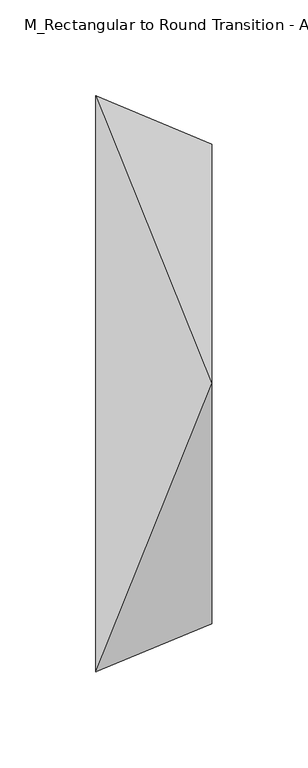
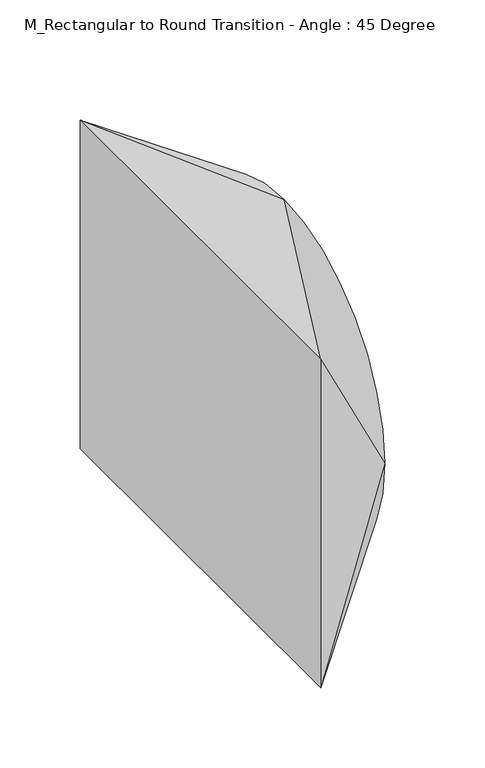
"""IFC4 building model written with IfcOpenShell, lengths in millimetres: duct fitting geometry, M_Rectangular to Round Transition - Angle : 45 Degree."""

from ifc_helpers import new_model, si_unit, frame, origin, place, context, project, spatial, circle_curve, source, transform, mapped, element, save
from ifc_brep_helpers import plane_surface, spline_surface, advanced_brep


def m_rectangular_to_round_transition_angle_45_degree_73c35b49(model_context):
    return source(origin(), model_context, "Body", "AdvancedBrep", [
        advanced_brep(
        [(0.0, -150.0, -125.0), (0.0, -150.0, 125.0), (0.0, 150.0, 125.0), (0.0, 150.0, -125.0), (60.3553391, -125.0, 9.5), (60.3553391, 0.0, -115.5), (60.3553391, 125.0, 9.5), (60.3553391, 0.0, 134.5)],
        [
            (0, 1),
            (1, 2),
            (2, 3),
            (3, 0),
            (4, 5, circle_curve(frame((60.3553391, 0.0, 9.5), z_axis=(1.0, 0.0, 0.0), x_axis=(0.0, -1.0, 0.0)), 125.0)),
            (5, 6, circle_curve(frame((60.3553391, 0.0, 9.5), z_axis=(1.0, 0.0, 0.0), x_axis=(0.0, -1.0, 0.0)), 125.0)),
            (6, 7, circle_curve(frame((60.3553391, 0.0, 9.5), z_axis=(1.0, 0.0, 0.0), x_axis=(0.0, -1.0, 0.0)), 125.0)),
            (7, 4, circle_curve(frame((60.3553391, 0.0, 9.5), z_axis=(1.0, 0.0, 0.0), x_axis=(0.0, -1.0, 0.0)), 125.0)),
            (0, 4),
            (4, 1),
            (7, 1),
            (7, 2),
            (6, 2),
            (6, 3),
            (5, 3),
            (5, 0),
        ],
        [
            plane_surface(frame((0.0, 0.0, 0.0), z_axis=(-1.0, 0.0, 0.0), x_axis=(0.0, 1.0, 0.0))),
            plane_surface(frame((60.3553391, 0.0, 9.5), z_axis=(1.0, 0.0, 0.0), x_axis=(0.0, 1.0, 0.0))),
            plane_surface(frame((60.3553391, -125.0, 9.5), z_axis=(0.3826834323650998, -0.9238795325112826, 0.0), x_axis=(0.0, 0.0, 1.0))),
            spline_surface(2, 1, [[(60.3553391, -125.0, 9.5), (0.0, -150.0, 125.0)], [(60.3553391, -125.0, 134.5), (0.0, -150.0, 125.0)], [(60.3553391, 0.0, 134.5), (0.0, -150.0, 125.0)]], [3, 3], [2, 2], [0.0, 1.0], [0.0, 1.0], weights=[[1.0, 1.0], [0.7071067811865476, 0.7071067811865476], [1.0, 1.0]]),
            plane_surface(frame((60.3553391, 0.0, 134.5), z_axis=(-0.15548683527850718, 0.0, 0.9878379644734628), x_axis=(0.0, 1.0, 0.0))),
            spline_surface(2, 1, [[(60.3553391, 0.0, 134.5), (0.0, 150.0, 125.0)], [(60.3553391, 125.0, 134.5), (0.0, 150.0, 125.0)], [(60.3553391, 125.0, 9.5), (0.0, 150.0, 125.0)]], [3, 3], [2, 2], [0.0, 1.0], [0.0, 1.0], weights=[[1.0, 1.0], [0.7071067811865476, 0.7071067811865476], [1.0, 1.0]]),
            plane_surface(frame((60.3553391, 125.0, 9.5), z_axis=(0.38268343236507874, 0.9238795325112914, 0.0), x_axis=(0.0, 0.0, -1.0))),
            spline_surface(2, 1, [[(60.3553391, 125.0, 9.5), (0.0, 150.0, -125.0)], [(60.3553391, 125.0, -115.5), (0.0, 150.0, -125.0)], [(60.3553391, 0.0, -115.5), (0.0, 150.0, -125.0)]], [3, 3], [2, 2], [0.0, 1.0], [0.0, 1.0], weights=[[1.0, 1.0], [0.7071067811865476, 0.7071067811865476], [1.0, 1.0]]),
            plane_surface(frame((60.3553391, 0.0, -115.5), z_axis=(0.15548683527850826, 0.0, -0.9878379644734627), x_axis=(0.0, -1.0, 0.0))),
            spline_surface(2, 1, [[(60.3553391, 0.0, -115.5), (0.0, -150.0, -125.0)], [(60.3553391, -125.0, -115.5), (0.0, -150.0, -125.0)], [(60.3553391, -125.0, 9.5), (0.0, -150.0, -125.0)]], [3, 3], [2, 2], [0.0, 1.0], [0.0, 1.0], weights=[[1.0, 1.0], [0.7071067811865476, 0.7071067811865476], [1.0, 1.0]]),
        ],
        [
            (0, [[1, 2, 3, 4]]),
            (1, [[5, 6, 7, 8]]),
            (2, [[-1, 9, 10]]),
            (3, [[-8, 11, -10]]),
            (4, [[-2, -11, 12]]),
            (5, [[-7, 13, -12]]),
            (6, [[-3, -13, 14]]),
            (7, [[-6, 15, -14]]),
            (8, [[-4, -15, 16]]),
            (9, [[-5, -9, -16]]),
        ],
    ),
        advanced_brep(
        [(0.0, -150.0, -125.0), (0.0, -150.0, 125.0), (0.0, 150.0, 125.0), (0.0, 150.0, -125.0), (60.3553391, -125.0, 9.5), (60.3553391, 0.0, -115.5), (60.3553391, 125.0, 9.5), (60.3553391, 0.0, 134.5)],
        [
            (0, 1),
            (1, 2),
            (2, 3),
            (3, 0),
            (4, 5, circle_curve(frame((60.3553391, 0.0, 9.5), z_axis=(1.0, 0.0, 0.0), x_axis=(0.0, -1.0, 0.0)), 125.0)),
            (5, 6, circle_curve(frame((60.3553391, 0.0, 9.5), z_axis=(1.0, 0.0, 0.0), x_axis=(0.0, -1.0, 0.0)), 125.0)),
            (6, 7, circle_curve(frame((60.3553391, 0.0, 9.5), z_axis=(1.0, 0.0, 0.0), x_axis=(0.0, -1.0, 0.0)), 125.0)),
            (7, 4, circle_curve(frame((60.3553391, 0.0, 9.5), z_axis=(1.0, 0.0, 0.0), x_axis=(0.0, -1.0, 0.0)), 125.0)),
            (0, 4),
            (4, 1),
            (7, 1),
            (7, 2),
            (6, 2),
            (6, 3),
            (5, 3),
            (5, 0),
        ],
        [
            plane_surface(frame((0.0, 0.0, 0.0), z_axis=(-1.0, 0.0, 0.0), x_axis=(0.0, 1.0, 0.0))),
            plane_surface(frame((60.3553391, 0.0, 9.5), z_axis=(1.0, 0.0, 0.0), x_axis=(0.0, 1.0, 0.0))),
            plane_surface(frame((60.3553391, -125.0, 9.5), z_axis=(0.3826834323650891, -0.9238795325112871, 0.0), x_axis=(0.0, 0.0, 1.0))),
            spline_surface(2, 1, [[(60.3553391, -125.0, 9.5), (0.0, -150.0, 125.0)], [(60.3553391, -125.0, 134.5), (0.0, -150.0, 125.0)], [(60.3553391, 0.0, 134.5), (0.0, -150.0, 125.0)]], [3, 3], [2, 2], [0.0, 1.0], [0.0, 1.0], weights=[[1.0, 1.0], [0.7071067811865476, 0.7071067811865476], [1.0, 1.0]]),
            plane_surface(frame((60.3553391, 0.0, 134.5), z_axis=(-0.1554868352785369, 0.0, 0.9878379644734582), x_axis=(0.0, 1.0, 0.0))),
            spline_surface(2, 1, [[(60.3553391, 0.0, 134.5), (0.0, 150.0, 125.0)], [(60.3553391, 125.0, 134.5), (0.0, 150.0, 125.0)], [(60.3553391, 125.0, 9.5), (0.0, 150.0, 125.0)]], [3, 3], [2, 2], [0.0, 1.0], [0.0, 1.0], weights=[[1.0, 1.0], [0.7071067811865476, 0.7071067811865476], [1.0, 1.0]]),
            plane_surface(frame((60.3553391, 125.0, 9.5), z_axis=(0.38268343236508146, 0.9238795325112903, 0.0), x_axis=(0.0, 0.0, -1.0))),
            spline_surface(2, 1, [[(60.3553391, 125.0, 9.5), (0.0, 150.0, -125.0)], [(60.3553391, 125.0, -115.5), (0.0, 150.0, -125.0)], [(60.3553391, 0.0, -115.5), (0.0, 150.0, -125.0)]], [3, 3], [2, 2], [0.0, 1.0], [0.0, 1.0], weights=[[1.0, 1.0], [0.7071067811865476, 0.7071067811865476], [1.0, 1.0]]),
            plane_surface(frame((60.3553391, 0.0, -115.5), z_axis=(0.15548683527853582, 0.0, -0.9878379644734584), x_axis=(0.0, -1.0, 0.0))),
            spline_surface(2, 1, [[(60.3553391, 0.0, -115.5), (0.0, -150.0, -125.0)], [(60.3553391, -125.0, -115.5), (0.0, -150.0, -125.0)], [(60.3553391, -125.0, 9.5), (0.0, -150.0, -125.0)]], [3, 3], [2, 2], [0.0, 1.0], [0.0, 1.0], weights=[[1.0, 1.0], [0.7071067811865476, 0.7071067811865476], [1.0, 1.0]]),
        ],
        [
            (0, [[1, 2, 3, 4]]),
            (1, [[5, 6, 7, 8]]),
            (2, [[-1, 9, 10]]),
            (3, [[-8, 11, -10]]),
            (4, [[-2, -11, 12]]),
            (5, [[-7, 13, -12]]),
            (6, [[-3, -13, 14]]),
            (7, [[-6, 15, -14]]),
            (8, [[-4, -15, 16]]),
            (9, [[-5, -9, -16]]),
        ],
    ),
        advanced_brep(
        [(60.3553391, 0.0, 134.5), (60.3553391, -125.0, 9.5), (60.3553391, 0.0, -115.5), (60.3553391, 125.0, 9.5), (0.0, -150.0, 125.0), (0.0, 150.0, 125.0), (0.0, 150.0, -125.0), (0.0, -150.0, -125.0)],
        [
            (0, 1, circle_curve(frame((60.3553391, 0.0, 9.5), z_axis=(1.0, 0.0, 0.0), x_axis=(0.0, 1.0, 0.0)), 125.0)),
            (1, 2, circle_curve(frame((60.3553391, 0.0, 9.5), z_axis=(1.0, 0.0, 0.0), x_axis=(0.0, 1.0, 0.0)), 125.0)),
            (2, 3, circle_curve(frame((60.3553391, 0.0, 9.5), z_axis=(1.0, 0.0, 0.0), x_axis=(0.0, 1.0, 0.0)), 125.0)),
            (3, 0, circle_curve(frame((60.3553391, 0.0, 9.5), z_axis=(1.0, 0.0, 0.0), x_axis=(0.0, 1.0, 0.0)), 125.0)),
            (4, 5),
            (5, 6),
            (6, 7),
            (7, 4),
            (0, 4),
            (4, 1),
            (7, 1),
            (7, 2),
            (6, 2),
            (6, 3),
            (5, 3),
            (5, 0),
        ],
        [
            plane_surface(frame((60.3553391, 0.0, 9.5), z_axis=(1.0, 0.0, 0.0), x_axis=(0.0, 0.0, -1.0))),
            plane_surface(frame((0.0, 0.0, 0.0), z_axis=(-1.0, 0.0, 0.0), x_axis=(0.0, 0.0, -1.0))),
            spline_surface(2, 1, [[(0.0, -150.0, 125.0), (60.3553391, 0.0, 134.5)], [(0.0, -150.0, 125.0), (60.3553391, -125.0, 134.5)], [(0.0, -150.0, 125.0), (60.3553391, -125.0, 9.5)]], [3, 3], [2, 2], [0.0, 1.0], [0.0, 1.0], weights=[[1.0, 1.0], [0.7071067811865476, 0.7071067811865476], [1.0, 1.0]]),
            plane_surface(frame((0.0, -150.0, 0.0), z_axis=(0.3826834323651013, -0.923879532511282, 0.0), x_axis=(0.0, 0.0, -1.0))),
            spline_surface(2, 1, [[(0.0, -150.0, -125.0), (60.3553391, -125.0, 9.5)], [(0.0, -150.0, -125.0), (60.3553391, -125.0, -115.5)], [(0.0, -150.0, -125.0), (60.3553391, 0.0, -115.5)]], [3, 3], [2, 2], [0.0, 1.0], [0.0, 1.0], weights=[[1.0, 1.0], [0.7071067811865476, 0.7071067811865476], [1.0, 1.0]]),
            plane_surface(frame((0.0, 0.0, -125.0), z_axis=(0.15548683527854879, 0.0, -0.9878379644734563), x_axis=(0.0, 1.0, 0.0))),
            spline_surface(2, 1, [[(0.0, 150.0, -125.0), (60.3553391, 0.0, -115.5)], [(0.0, 150.0, -125.0), (60.3553391, 125.0, -115.5)], [(0.0, 150.0, -125.0), (60.3553391, 125.0, 9.5)]], [3, 3], [2, 2], [0.0, 1.0], [0.0, 1.0], weights=[[1.0, 1.0], [0.7071067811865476, 0.7071067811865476], [1.0, 1.0]]),
            plane_surface(frame((0.0, 150.0, 0.0), z_axis=(0.3826834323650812, 0.9238795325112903, 0.0), x_axis=(0.0, 0.0, 1.0))),
            spline_surface(2, 1, [[(0.0, 150.0, 125.0), (60.3553391, 125.0, 9.5)], [(0.0, 150.0, 125.0), (60.3553391, 125.0, 134.5)], [(0.0, 150.0, 125.0), (60.3553391, 0.0, 134.5)]], [3, 3], [2, 2], [0.0, 1.0], [0.0, 1.0], weights=[[1.0, 1.0], [0.7071067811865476, 0.7071067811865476], [1.0, 1.0]]),
            plane_surface(frame((0.0, 0.0, 125.0), z_axis=(-0.15548683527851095, 0.0, 0.9878379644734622), x_axis=(0.0, -1.0, 0.0))),
        ],
        [
            (0, [[1, 2, 3, 4]]),
            (1, [[5, 6, 7, 8]]),
            (2, [[-1, 9, 10]]),
            (3, [[-8, 11, -10]]),
            (4, [[-2, -11, 12]]),
            (5, [[-7, 13, -12]]),
            (6, [[-3, -13, 14]]),
            (7, [[-6, 15, -14]]),
            (8, [[-4, -15, 16]]),
            (9, [[-5, -9, -16]]),
        ],
    ),
    ])


if __name__ == "__main__":
    model = new_model("IFC4")
    model_context = context("Model", 3, world=origin())
    ifc_project = project(units=[si_unit("LENGTHUNIT", "METRE", prefix="MILLI")], contexts=[model_context])
    site = spatial("IfcSite", under=ifc_project)
    building = spatial("IfcBuilding", under=site)
    placement = place(None, origin())
    m_rectangular_to_round_transition_angle_45_degree_shape = m_rectangular_to_round_transition_angle_45_degree_73c35b49(model_context)
    element("IfcDuctFitting", 1, ObjectType="M_Rectangular to Round Transition - Angle : 45 Degree", at=placement, inside=building, context=model_context, shape_type="MappedRepresentation", body=[
        mapped(m_rectangular_to_round_transition_angle_45_degree_shape, transform((0.0, 0.0, 0.0), x_axis=(1.0, 0.0, 0.0), y_axis=(0.0, 1.0, 0.0), z_axis=(0.0, 0.0, 1.0))),
    ])
    save(model, "model.ifc")
